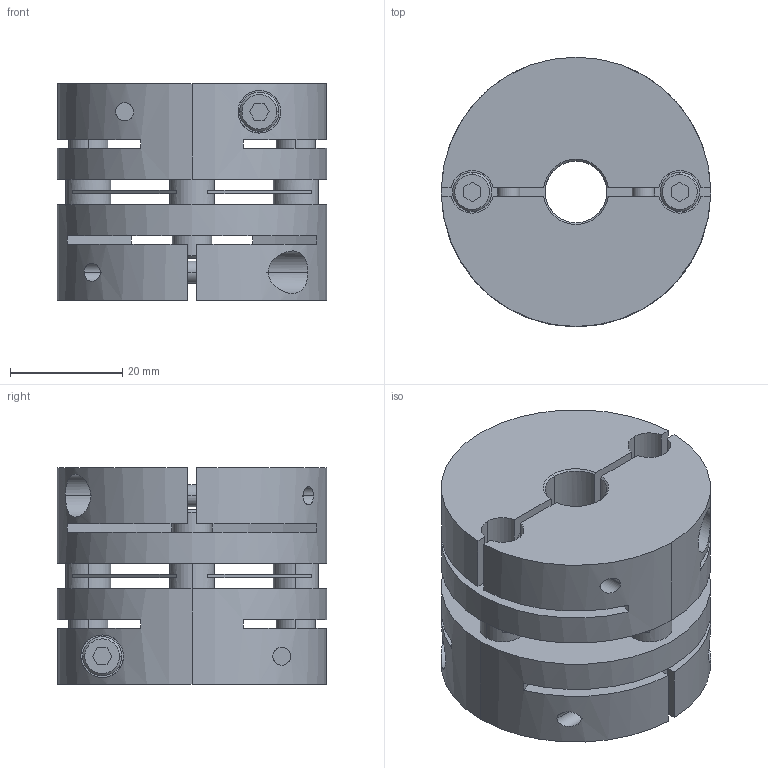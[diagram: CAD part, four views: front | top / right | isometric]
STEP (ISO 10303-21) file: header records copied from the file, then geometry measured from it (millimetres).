
FILE_DESCRIPTION((''),'2;1');
FILE_NAME('LAS-48C-11×24.stp','2015-10-14T15:43:49',(''),(''),'AutoCAD STEP 2000i','AutoCAD 2000i',', , ');
FILE_SCHEMA(('CONFIG_CONTROL_DESIGN'));
Length unit declared in the file: millimetre
Products named in the file (6): LAS-48C-12×19; 忣兜1; LA-4802-D19; LA-4802-D12-1; LA-4802-D12; LAS48-ITA
Assembly tree (5 placements, depth 2):
  LAS-48C-12×19
    忣兜1
    LA-4802-D19
    LA-4802-D12-1
    LA-4802-D12
    LAS48-ITA
Bounding box: 48 x 48 x 38.6 mm (x, y, z)
Volume: 47022.6 mm3; surface area: 21865.5 mm2
Topology: 1 solids, 1 shells, 224 faces, 600 edges, 392 vertices
Faces by surface type: plane 112, cylinder 84, cone 28
Entity records: 7841 total; most frequent: CARTESIAN_POINT 1878, DIRECTION 1256, ORIENTED_EDGE 1200, EDGE_CURVE 600, AXIS2_PLACEMENT_3D 458, VERTEX_POINT 392, VECTOR 340, LINE 340
